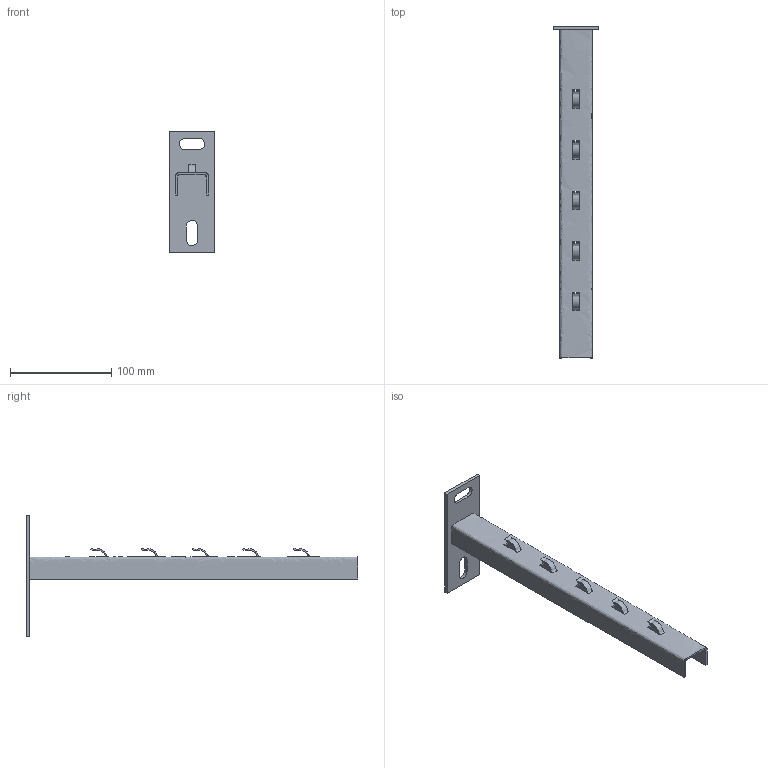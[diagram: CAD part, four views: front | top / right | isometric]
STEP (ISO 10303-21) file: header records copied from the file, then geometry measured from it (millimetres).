
FILE_DESCRIPTION(/* description */ (''),/* implementation_level */ '2;1');
FILE_NAME(/* name */ 'NPZM300',/* time_stamp */ '2013-11-22T10:38:25+01:00',/* author */ (''),/* organization */ (''),/* preprocessor_version */ 'ST-DEVELOPER v10',/* originating_system */ '',/* authorisation */ '');
FILE_SCHEMA (('AUTOMOTIVE_DESIGN_CC2'));
Length unit declared in the file: millimetre
Products named in the file (1): 1
Bounding box: 45 x 328 x 120 mm (x, y, z)
Volume: 57776.6 mm3; surface area: 60094.7 mm2
Topology: 7 solids, 7 shells, 106 faces, 296 edges, 204 vertices
Faces by surface type: bspline 96, plane 10
Entity records: 5313 total; most frequent: CARTESIAN_POINT 3615, ORIENTED_EDGE 552, EDGE_CURVE 276, VERTEX_POINT 184, B_SPLINE_CURVE_WITH_KNOTS 134, EDGE_LOOP 120, ADVANCED_FACE 106, FACE_OUTER_BOUND 106
